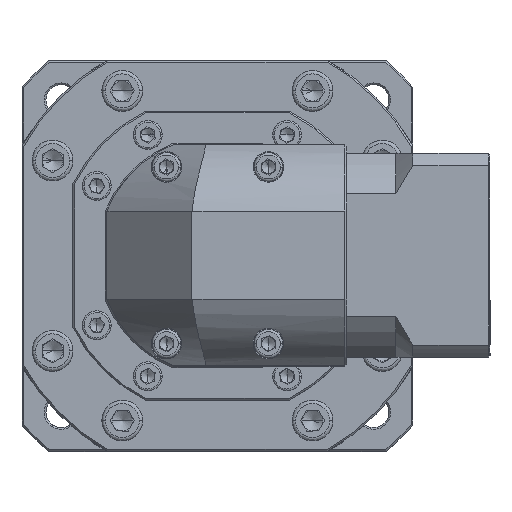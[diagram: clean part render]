
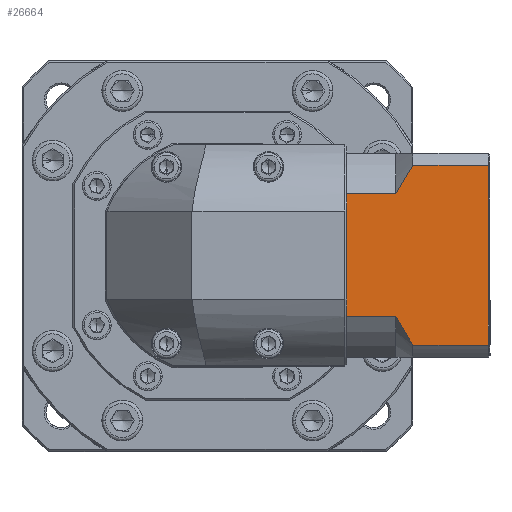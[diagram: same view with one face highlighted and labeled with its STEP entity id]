
A CAD part, top view. The second image highlights one B-rep face of the part: STEP entity #26664.
In plain terms, the highlighted planar face has unit normal (0, 0, 1).
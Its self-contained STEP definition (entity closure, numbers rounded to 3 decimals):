
#393 = VERTEX_POINT ( 'NONE', #107068 ) ;
#804 = CARTESIAN_POINT ( 'NONE',  ( 122.088, 141.573, 59.081 ) ) ;
#1660 = CARTESIAN_POINT ( 'NONE',  ( 149.788, 153.545, 59.081 ) ) ;
#1870 = LINE ( 'NONE', #83893, #79240 ) ;
#2068 = ORIENTED_EDGE ( 'NONE', *, *, #85809, .T. ) ;
#3277 = CARTESIAN_POINT ( 'NONE',  ( 107.588, 153.545, 59.081 ) ) ;
#3402 = ORIENTED_EDGE ( 'NONE', *, *, #7466, .T. ) ;
#4353 = EDGE_CURVE ( 'NONE', #23674, #28074, #69026, .T. ) ;
#5090 = VECTOR ( 'NONE', #124210, 1000. ) ;
#5172 = VERTEX_POINT ( 'NONE', #34728 ) ;
#6403 = CARTESIAN_POINT ( 'NONE',  ( 122.838, 104.061, 59.081 ) ) ;
#6915 = B_SPLINE_CURVE_WITH_KNOTS ( 'NONE', 3,
 ( #134663, #6403, #49122, #59923, #136069, #17718 ),
 .UNSPECIFIED., .F., .F.,
 ( 4, 2, 4 ),
 ( 0.1, 0.104, 0.109 ),
 .UNSPECIFIED. ) ;
#7466 = EDGE_CURVE ( 'NONE', #87872, #120600, #38312, .T. ) ;
#8364 = DIRECTION ( 'NONE',  ( 0., 1., 0. ) ) ;
#9085 = ORIENTED_EDGE ( 'NONE', *, *, #97512, .T. ) ;
#9556 = ORIENTED_EDGE ( 'NONE', *, *, #27006, .T. ) ;
#10688 = CARTESIAN_POINT ( 'NONE',  ( 126.188, 148.643, 59.081 ) ) ;
#12350 = CARTESIAN_POINT ( 'NONE',  ( 122.088, 150.003, 59.081 ) ) ;
#13508 = VECTOR ( 'NONE', #47162, 1000. ) ;
#14999 = CARTESIAN_POINT ( 'NONE',  ( 107.588, 105.518, 59.081 ) ) ;
#17718 = CARTESIAN_POINT ( 'NONE',  ( 127.088, 97.088, 59.081 ) ) ;
#22362 = PLANE ( 'NONE',  #47879 ) ;
#22416 = ORIENTED_EDGE ( 'NONE', *, *, #115123, .F. ) ;
#23674 = VERTEX_POINT ( 'NONE', #127734 ) ;
#26664 = ADVANCED_FACE ( 'NONE', ( #90932 ), #22362, .F. ) ;
#27006 = EDGE_CURVE ( 'NONE', #393, #101010, #104185, .T. ) ;
#28074 = VERTEX_POINT ( 'NONE', #34970 ) ;
#28851 = CARTESIAN_POINT ( 'NONE',  ( 107.588, 153.545, 59.081 ) ) ;
#29996 = VECTOR ( 'NONE', #88743, 1000. ) ;
#31875 = EDGE_CURVE ( 'NONE', #23674, #107969, #130641, .T. ) ;
#34728 = CARTESIAN_POINT ( 'NONE',  ( 122.088, 105.518, 59.081 ) ) ;
#34859 = LINE ( 'NONE', #12350, #125601 ) ;
#34970 = CARTESIAN_POINT ( 'NONE',  ( 107.588, 140.582, 59.081 ) ) ;
#38312 = LINE ( 'NONE', #51974, #58555 ) ;
#39079 = CARTESIAN_POINT ( 'NONE',  ( 122.088, 105.518, 59.081 ) ) ;
#44255 = EDGE_CURVE ( 'NONE', #87872, #106665, #1870, .T. ) ;
#47162 = DIRECTION ( 'NONE',  ( 0., -1., 0. ) ) ;
#47879 = AXIS2_PLACEMENT_3D ( 'NONE', #1660, #128489, #64145 ) ;
#48518 = DIRECTION ( 'NONE',  ( 1., 0., 0. ) ) ;
#48794 = VECTOR ( 'NONE', #73831, 1000. ) ;
#49122 = CARTESIAN_POINT ( 'NONE',  ( 123.638, 102.636, 59.081 ) ) ;
#51974 = CARTESIAN_POINT ( 'NONE',  ( 149.288, 153.545, 59.081 ) ) ;
#52024 = CARTESIAN_POINT ( 'NONE',  ( 122.088, 141.573, 59.081 ) ) ;
#53064 = EDGE_CURVE ( 'NONE', #28074, #393, #139393, .T. ) ;
#54112 = ORIENTED_EDGE ( 'NONE', *, *, #53064, .T. ) ;
#57458 = ORIENTED_EDGE ( 'NONE', *, *, #110345, .F. ) ;
#58555 = VECTOR ( 'NONE', #8364, 1000. ) ;
#59923 = CARTESIAN_POINT ( 'NONE',  ( 125.313, 99.83, 59.081 ) ) ;
#64145 = DIRECTION ( 'NONE',  ( 1., 0., 0. ) ) ;
#64935 = VERTEX_POINT ( 'NONE', #118991 ) ;
#64948 = DIRECTION ( 'NONE',  ( 1., 0., 0. ) ) ;
#67733 = CARTESIAN_POINT ( 'NONE',  ( 149.288, 97.088, 59.081 ) ) ;
#69026 = LINE ( 'NONE', #28851, #5090 ) ;
#73751 = B_SPLINE_CURVE_WITH_KNOTS ( 'NONE', 3,
 ( #107460, #10688, #117785, #128569, #107937, #804 ),
 .UNSPECIFIED., .F., .F.,
 ( 4, 2, 4 ),
 ( 0.052, 0.057, 0.062 ),
 .UNSPECIFIED. ) ;
#73831 = DIRECTION ( 'NONE',  ( -1., 0., 0. ) ) ;
#79240 = VECTOR ( 'NONE', #84822, 1000. ) ;
#83893 = CARTESIAN_POINT ( 'NONE',  ( 122.088, 97.088, 59.081 ) ) ;
#84822 = DIRECTION ( 'NONE',  ( -1., 0., 0. ) ) ;
#85809 = EDGE_CURVE ( 'NONE', #64935, #107969, #73751, .T. ) ;
#87872 = VERTEX_POINT ( 'NONE', #67733 ) ;
#88743 = DIRECTION ( 'NONE',  ( 0., -1., 0. ) ) ;
#90932 = FACE_OUTER_BOUND ( 'NONE', #126740, .T. ) ;
#97512 = EDGE_CURVE ( 'NONE', #5172, #106665, #6915, .T. ) ;
#101010 = VERTEX_POINT ( 'NONE', #14999 ) ;
#101245 = CARTESIAN_POINT ( 'NONE',  ( 149.288, 150.003, 59.081 ) ) ;
#101603 = CARTESIAN_POINT ( 'NONE',  ( 122.088, 141.573, 59.081 ) ) ;
#102527 = CARTESIAN_POINT ( 'NONE',  ( 107.588, 153.545, 59.081 ) ) ;
#104185 = LINE ( 'NONE', #102527, #13508 ) ;
#105971 = LINE ( 'NONE', #39079, #48794 ) ;
#106665 = VERTEX_POINT ( 'NONE', #120561 ) ;
#107038 = VECTOR ( 'NONE', #48518, 1000. ) ;
#107068 = CARTESIAN_POINT ( 'NONE',  ( 107.588, 106.509, 59.081 ) ) ;
#107460 = CARTESIAN_POINT ( 'NONE',  ( 127.088, 150.003, 59.081 ) ) ;
#107937 = CARTESIAN_POINT ( 'NONE',  ( 122.836, 143.025, 59.081 ) ) ;
#107969 = VERTEX_POINT ( 'NONE', #52024 ) ;
#108705 = ORIENTED_EDGE ( 'NONE', *, *, #4353, .T. ) ;
#110345 = EDGE_CURVE ( 'NONE', #5172, #101010, #105971, .T. ) ;
#115023 = ORIENTED_EDGE ( 'NONE', *, *, #44255, .F. ) ;
#115123 = EDGE_CURVE ( 'NONE', #64935, #120600, #34859, .T. ) ;
#117785 = CARTESIAN_POINT ( 'NONE',  ( 125.315, 147.264, 59.081 ) ) ;
#118991 = CARTESIAN_POINT ( 'NONE',  ( 127.088, 150.003, 59.081 ) ) ;
#120561 = CARTESIAN_POINT ( 'NONE',  ( 127.088, 97.088, 59.081 ) ) ;
#120600 = VERTEX_POINT ( 'NONE', #101245 ) ;
#124210 = DIRECTION ( 'NONE',  ( 0., -1., 0. ) ) ;
#125601 = VECTOR ( 'NONE', #64948, 1000. ) ;
#126740 = EDGE_LOOP ( 'NONE', ( #115023, #3402, #22416, #2068, #131492, #108705, #54112, #9556, #57458, #9085 ) ) ;
#127734 = CARTESIAN_POINT ( 'NONE',  ( 107.588, 141.573, 59.081 ) ) ;
#128489 = DIRECTION ( 'NONE',  ( 0., 0., -1. ) ) ;
#128569 = CARTESIAN_POINT ( 'NONE',  ( 123.639, 144.457, 59.081 ) ) ;
#130641 = LINE ( 'NONE', #101603, #107038 ) ;
#131492 = ORIENTED_EDGE ( 'NONE', *, *, #31875, .F. ) ;
#134663 = CARTESIAN_POINT ( 'NONE',  ( 122.088, 105.518, 59.081 ) ) ;
#136069 = CARTESIAN_POINT ( 'NONE',  ( 126.186, 98.451, 59.081 ) ) ;
#139393 = LINE ( 'NONE', #3277, #29996 ) ;
